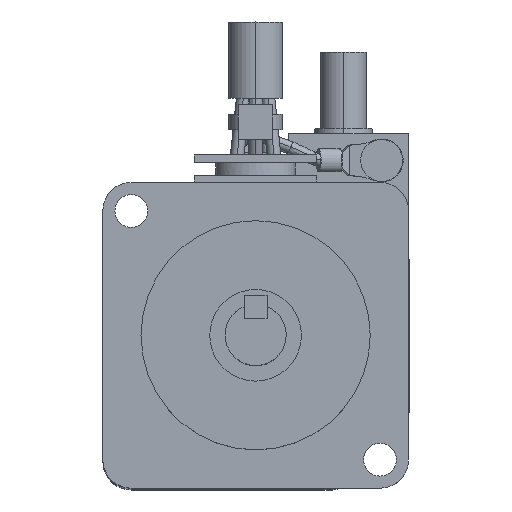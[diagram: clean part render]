
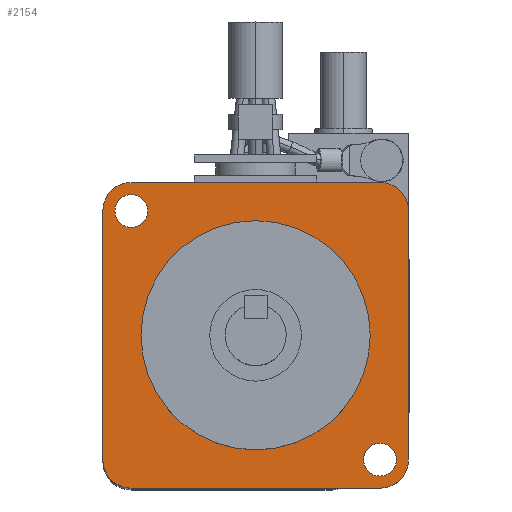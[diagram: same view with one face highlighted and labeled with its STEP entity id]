
A CAD part, top view. The second image highlights one B-rep face of the part: STEP entity #2154.
In plain terms, the highlighted planar face has unit normal (0, 0, 1).
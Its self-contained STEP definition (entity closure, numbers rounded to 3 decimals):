
#85 = VERTEX_POINT ( 'NONE', #4361 ) ;
#94 = VERTEX_POINT ( 'NONE', #4332 ) ;
#95 = EDGE_CURVE ( 'NONE', #120, #94, #4331, .T. ) ;
#106 = VERTEX_POINT ( 'NONE', #4382 ) ;
#112 = VERTEX_POINT ( 'NONE', #4367 ) ;
#114 = EDGE_CURVE ( 'NONE', #106, #112, #4425, .T. ) ;
#120 = VERTEX_POINT ( 'NONE', #4412 ) ;
#129 = VERTEX_POINT ( 'NONE', #4439 ) ;
#130 = EDGE_CURVE ( 'NONE', #85, #129, #4509, .T. ) ;
#2072 = EDGE_CURVE ( 'NONE', #129, #85, #8371, .T. ) ;
#2088 = EDGE_CURVE ( 'NONE', #94, #120, #8410, .T. ) ;
#2124 = VERTEX_POINT ( 'NONE', #8461 ) ;
#2126 = EDGE_CURVE ( 'NONE', #2127, #2124, #8460, .T. ) ;
#2127 = VERTEX_POINT ( 'NONE', #8520 ) ;
#2132 = EDGE_CURVE ( 'NONE', #112, #106, #8507, .T. ) ;
#2141 = VERTEX_POINT ( 'NONE', #8555 ) ;
#2143 = EDGE_CURVE ( 'NONE', #2144, #2141, #8554, .T. ) ;
#2144 = VERTEX_POINT ( 'NONE', #8549 ) ;
#2154 = ADVANCED_FACE ( 'NONE', ( #8533, #8532, #8531, #8530 ), #8528, .T. ) ;
#2155 = EDGE_LOOP ( 'NONE', ( #2156, #2157 ) ) ;
#2156 = ORIENTED_EDGE ( 'NONE', *, *, #2132, .F. ) ;
#2157 = ORIENTED_EDGE ( 'NONE', *, *, #114, .F. ) ;
#2158 = EDGE_LOOP ( 'NONE', ( #2159, #2217 ) ) ;
#2159 = ORIENTED_EDGE ( 'NONE', *, *, #2072, .F. ) ;
#2203 = EDGE_CURVE ( 'NONE', #2228, #2204, #8653, .T. ) ;
#2204 = VERTEX_POINT ( 'NONE', #8648 ) ;
#2205 = ORIENTED_EDGE ( 'NONE', *, *, #2206, .T. ) ;
#2206 = EDGE_CURVE ( 'NONE', #2204, #2127, #8647, .T. ) ;
#2207 = ORIENTED_EDGE ( 'NONE', *, *, #2126, .T. ) ;
#2208 = ORIENTED_EDGE ( 'NONE', *, *, #2209, .T. ) ;
#2209 = EDGE_CURVE ( 'NONE', #2124, #2210, #8643, .T. ) ;
#2210 = VERTEX_POINT ( 'NONE', #8639 ) ;
#2211 = ORIENTED_EDGE ( 'NONE', *, *, #2212, .T. ) ;
#2212 = EDGE_CURVE ( 'NONE', #2210, #2224, #8638, .T. ) ;
#2217 = ORIENTED_EDGE ( 'NONE', *, *, #130, .F. ) ;
#2218 = EDGE_LOOP ( 'NONE', ( #2219, #2220 ) ) ;
#2219 = ORIENTED_EDGE ( 'NONE', *, *, #2088, .F. ) ;
#2220 = ORIENTED_EDGE ( 'NONE', *, *, #95, .F. ) ;
#2221 = EDGE_LOOP ( 'NONE', ( #2222, #2225, #2226, #2229, #2205, #2207, #2208, #2211 ) ) ;
#2222 = ORIENTED_EDGE ( 'NONE', *, *, #2223, .T. ) ;
#2223 = EDGE_CURVE ( 'NONE', #2224, #2144, #8623, .T. ) ;
#2224 = VERTEX_POINT ( 'NONE', #8683 ) ;
#2225 = ORIENTED_EDGE ( 'NONE', *, *, #2143, .T. ) ;
#2226 = ORIENTED_EDGE ( 'NONE', *, *, #2227, .T. ) ;
#2227 = EDGE_CURVE ( 'NONE', #2141, #2228, #8682, .T. ) ;
#2228 = VERTEX_POINT ( 'NONE', #8678 ) ;
#2229 = ORIENTED_EDGE ( 'NONE', *, *, #2203, .T. ) ;
#4330 = AXIS2_PLACEMENT_3D ( 'NONE', #4399, #4398, #4397 ) ;
#4331 = CIRCLE ( 'NONE', #4330, 2.15 ) ;
#4332 = CARTESIAN_POINT ( 'NONE',  ( -14.113, 16.263, 0. ) ) ;
#4361 = CARTESIAN_POINT ( 'NONE',  ( 14.113, -16.263, 0. ) ) ;
#4367 = CARTESIAN_POINT ( 'NONE',  ( -15., 0., 0. ) ) ;
#4382 = CARTESIAN_POINT ( 'NONE',  ( 15., 0., 0. ) ) ;
#4397 = DIRECTION ( 'NONE',  ( 1., 0., 0. ) ) ;
#4398 = DIRECTION ( 'NONE',  ( 0., 0., 1. ) ) ;
#4399 = CARTESIAN_POINT ( 'NONE',  ( -16.263, 16.263, 0. ) ) ;
#4412 = CARTESIAN_POINT ( 'NONE',  ( -18.413, 16.263, 0. ) ) ;
#4421 = DIRECTION ( 'NONE',  ( 1., 0., 0. ) ) ;
#4422 = DIRECTION ( 'NONE',  ( 0., 0., 1. ) ) ;
#4423 = CARTESIAN_POINT ( 'NONE',  ( 0., 0., 0. ) ) ;
#4424 = AXIS2_PLACEMENT_3D ( 'NONE', #4423, #4422, #4421 ) ;
#4425 = CIRCLE ( 'NONE', #4424, 15. ) ;
#4439 = CARTESIAN_POINT ( 'NONE',  ( 18.413, -16.263, 0. ) ) ;
#4505 = DIRECTION ( 'NONE',  ( 1., 0., 0. ) ) ;
#4506 = DIRECTION ( 'NONE',  ( 0., 0., 1. ) ) ;
#4507 = CARTESIAN_POINT ( 'NONE',  ( 16.263, -16.263, 0. ) ) ;
#4508 = AXIS2_PLACEMENT_3D ( 'NONE', #4507, #4506, #4505 ) ;
#4509 = CIRCLE ( 'NONE', #4508, 2.15 ) ;
#8367 = DIRECTION ( 'NONE',  ( 1., 0., 0. ) ) ;
#8368 = DIRECTION ( 'NONE',  ( 0., 0., 1. ) ) ;
#8369 = CARTESIAN_POINT ( 'NONE',  ( 16.263, -16.263, 0. ) ) ;
#8370 = AXIS2_PLACEMENT_3D ( 'NONE', #8369, #8368, #8367 ) ;
#8371 = CIRCLE ( 'NONE', #8370, 2.15 ) ;
#8406 = DIRECTION ( 'NONE',  ( 1., 0., 0. ) ) ;
#8407 = DIRECTION ( 'NONE',  ( 0., 0., 1. ) ) ;
#8408 = CARTESIAN_POINT ( 'NONE',  ( -16.263, 16.263, 0. ) ) ;
#8409 = AXIS2_PLACEMENT_3D ( 'NONE', #8408, #8407, #8406 ) ;
#8410 = CIRCLE ( 'NONE', #8409, 2.15 ) ;
#8460 = CIRCLE ( 'NONE', #8524, 3.7 ) ;
#8461 = CARTESIAN_POINT ( 'NONE',  ( 20., -16.3, 0. ) ) ;
#8503 = DIRECTION ( 'NONE',  ( 1., 0., 0. ) ) ;
#8504 = DIRECTION ( 'NONE',  ( 0., 0., 1. ) ) ;
#8505 = CARTESIAN_POINT ( 'NONE',  ( 0., 0., 0. ) ) ;
#8506 = AXIS2_PLACEMENT_3D ( 'NONE', #8505, #8504, #8503 ) ;
#8507 = CIRCLE ( 'NONE', #8506, 15. ) ;
#8520 = CARTESIAN_POINT ( 'NONE',  ( 16.3, -20., 0. ) ) ;
#8521 = DIRECTION ( 'NONE',  ( 1., 0., 0. ) ) ;
#8522 = DIRECTION ( 'NONE',  ( 0., 0., 1. ) ) ;
#8523 = CARTESIAN_POINT ( 'NONE',  ( 16.3, -16.3, 0. ) ) ;
#8524 = AXIS2_PLACEMENT_3D ( 'NONE', #8523, #8522, #8521 ) ;
#8525 = DIRECTION ( 'NONE',  ( 0., 0., 1. ) ) ;
#8526 = CARTESIAN_POINT ( 'NONE',  ( -20., -20., 0. ) ) ;
#8527 = AXIS2_PLACEMENT_3D ( 'NONE', #8526, #8525, #8589 ) ;
#8528 = PLANE ( 'NONE',  #8527 ) ;
#8530 = FACE_OUTER_BOUND ( 'NONE', #2221, .T. ) ;
#8531 = FACE_BOUND ( 'NONE', #2218, .T. ) ;
#8532 = FACE_BOUND ( 'NONE', #2158, .T. ) ;
#8533 = FACE_BOUND ( 'NONE', #2155, .T. ) ;
#8549 = CARTESIAN_POINT ( 'NONE',  ( -16.3, 20., 0. ) ) ;
#8550 = DIRECTION ( 'NONE',  ( 1., 0., 0. ) ) ;
#8551 = DIRECTION ( 'NONE',  ( 0., 0., 1. ) ) ;
#8552 = CARTESIAN_POINT ( 'NONE',  ( -16.3, 16.3, 0. ) ) ;
#8553 = AXIS2_PLACEMENT_3D ( 'NONE', #8552, #8551, #8550 ) ;
#8554 = CIRCLE ( 'NONE', #8553, 3.7 ) ;
#8555 = CARTESIAN_POINT ( 'NONE',  ( -20., 16.3, 0. ) ) ;
#8589 = DIRECTION ( 'NONE',  ( 1., 0., 0. ) ) ;
#8623 = LINE ( 'NONE', #8686, #8685 ) ;
#8634 = DIRECTION ( 'NONE',  ( 1., 0., 0. ) ) ;
#8635 = DIRECTION ( 'NONE',  ( 0., 0., 1. ) ) ;
#8636 = CARTESIAN_POINT ( 'NONE',  ( 16.3, 16.3, 0. ) ) ;
#8637 = AXIS2_PLACEMENT_3D ( 'NONE', #8636, #8635, #8634 ) ;
#8638 = CIRCLE ( 'NONE', #8637, 3.7 ) ;
#8639 = CARTESIAN_POINT ( 'NONE',  ( 20., 16.3, 0. ) ) ;
#8640 = DIRECTION ( 'NONE',  ( 0., 1., 0. ) ) ;
#8641 = VECTOR ( 'NONE', #8640, 1000. ) ;
#8642 = CARTESIAN_POINT ( 'NONE',  ( 20., 20., 0. ) ) ;
#8643 = LINE ( 'NONE', #8642, #8641 ) ;
#8644 = DIRECTION ( 'NONE',  ( 1., 0., 0. ) ) ;
#8645 = VECTOR ( 'NONE', #8644, 1000. ) ;
#8646 = CARTESIAN_POINT ( 'NONE',  ( -20., -20., 0. ) ) ;
#8647 = LINE ( 'NONE', #8646, #8645 ) ;
#8648 = CARTESIAN_POINT ( 'NONE',  ( -16.3, -20., 0. ) ) ;
#8649 = DIRECTION ( 'NONE',  ( 1., 0., 0. ) ) ;
#8650 = DIRECTION ( 'NONE',  ( 0., 0., 1. ) ) ;
#8651 = CARTESIAN_POINT ( 'NONE',  ( -16.3, -16.3, 0. ) ) ;
#8652 = AXIS2_PLACEMENT_3D ( 'NONE', #8651, #8650, #8649 ) ;
#8653 = CIRCLE ( 'NONE', #8652, 3.7 ) ;
#8678 = CARTESIAN_POINT ( 'NONE',  ( -20., -16.3, 0. ) ) ;
#8679 = DIRECTION ( 'NONE',  ( 0., -1., 0. ) ) ;
#8680 = VECTOR ( 'NONE', #8679, 1000. ) ;
#8681 = CARTESIAN_POINT ( 'NONE',  ( -20., 20., 0. ) ) ;
#8682 = LINE ( 'NONE', #8681, #8680 ) ;
#8683 = CARTESIAN_POINT ( 'NONE',  ( 16.3, 20., 0. ) ) ;
#8684 = DIRECTION ( 'NONE',  ( -1., 0., 0. ) ) ;
#8685 = VECTOR ( 'NONE', #8684, 1000. ) ;
#8686 = CARTESIAN_POINT ( 'NONE',  ( -20., 20., 0. ) ) ;
